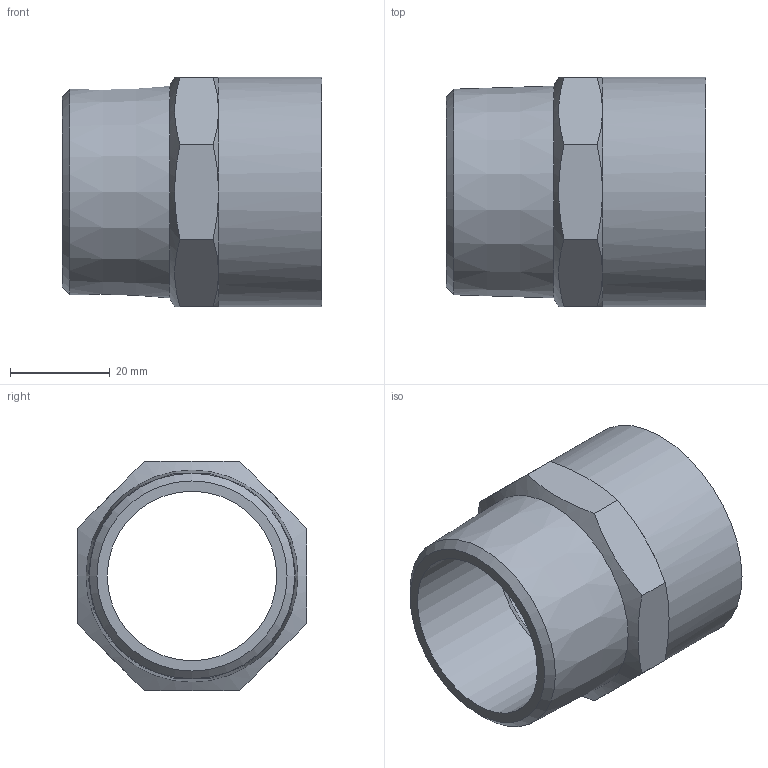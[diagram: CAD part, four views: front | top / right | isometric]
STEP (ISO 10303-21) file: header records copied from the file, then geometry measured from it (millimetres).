
FILE_DESCRIPTION(/* description */ (''),/* implementation_level */ '2;1');
FILE_NAME(/* name */ 'C:\Users\gomulka\Desktop\Nowy folder (2)\update\14243_42-114(3).stp',/* time_stamp */ '2017-10-19T12:15:10+02:00',/* author */ ('gomulka'),/* organization */ (''),/* preprocessor_version */ 'ST-DEVELOPER v15.6',/* originating_system */ 'Autodesk Inventor 2015',/* authorisation */ '');
FILE_SCHEMA (('AUTOMOTIVE_DESIGN { 1 0 10303 214 3 1 1 }'));
Length unit declared in the file: millimetre
Products named in the file (1): 14243_42-114(3)
Bounding box: 52 x 46 x 46 mm (x, y, z)
Volume: 20195.7 mm3; surface area: 14681.2 mm2
Topology: 1 solids, 1 shells, 26 faces, 57 edges, 34 vertices
Faces by surface type: cone 12, plane 11, cylinder 3
Full cylindrical faces by diameter (mm): 34 x1, 42 x1, 46 x1
Entity records: 662 total; most frequent: CARTESIAN_POINT 157, ORIENTED_EDGE 98, DIRECTION 96, EDGE_CURVE 49, AXIS2_PLACEMENT_3D 44, EDGE_LOOP 36, VERTEX_POINT 33, FACE_OUTER_BOUND 26
